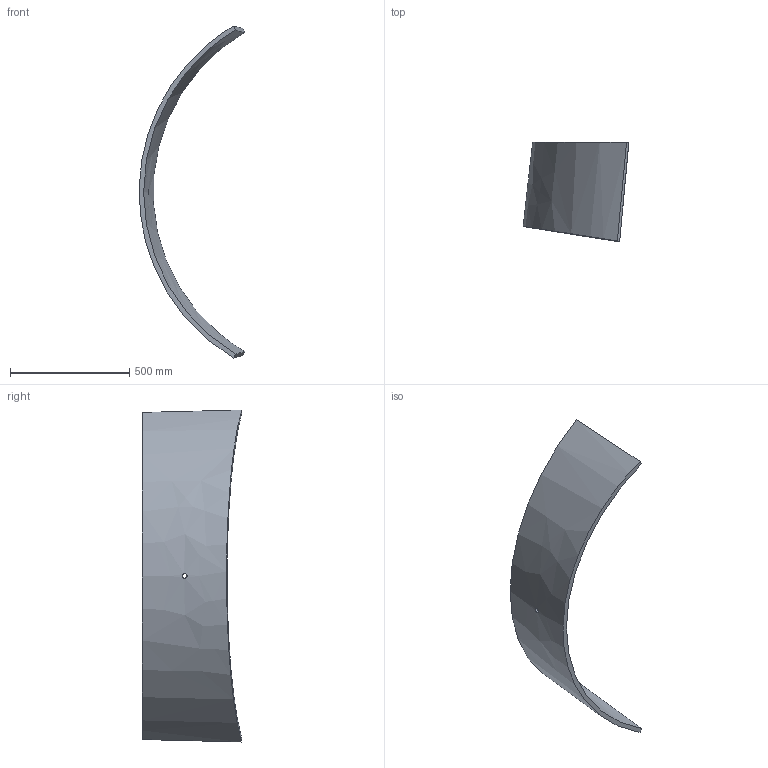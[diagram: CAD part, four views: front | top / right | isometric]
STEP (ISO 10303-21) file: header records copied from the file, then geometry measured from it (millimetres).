
FILE_DESCRIPTION (( 'STEP AP214' ), '1' );
FILE_NAME ('Section 4-B.STEP', '2025-01-09T19:43:27', ( '' ), ( '' ), 'SwSTEP 2.0', 'SolidWorks 2024', '' );
FILE_SCHEMA (( 'AUTOMOTIVE_DESIGN' ));
Length unit declared in the file: inch
Products named in the file (1): Section 4-B
Bounding box: 443.85 x 416.86 x 1394.92 mm (x, y, z)
Volume: 11842117.9 mm3; surface area: 1323083.6 mm2
Topology: 1 solids, 1 shells, 7 faces, 15 edges, 10 vertices
Faces by surface type: bspline 6, cylinder 1
Full cylindrical faces by diameter (mm): 19.431 x1
Entity records: 521 total; most frequent: CARTESIAN_POINT 384, ORIENTED_EDGE 28, EDGE_CURVE 14, B_SPLINE_CURVE_WITH_KNOTS 14, VERTEX_POINT 10, EDGE_LOOP 10, FACE_OUTER_BOUND 8, ADVANCED_FACE 7
